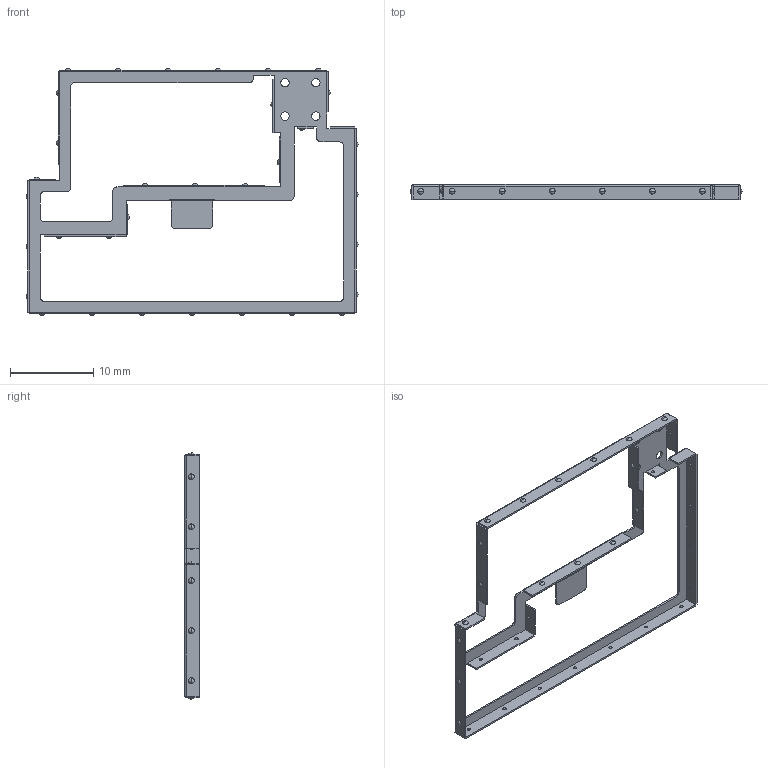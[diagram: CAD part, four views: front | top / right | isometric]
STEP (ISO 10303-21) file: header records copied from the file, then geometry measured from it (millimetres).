
FILE_DESCRIPTION((''),'2;1');
FILE_NAME('GTC01-A-MCS01-RF-FRAME_PRT','2008-06-30T',('GRA'),(''),'PRO/ENGINEER BY PARAMETRIC TECHNOLOGY CORPORATION, 2006170','PRO/ENGINEER BY PARAMETRIC TECHNOLOGY CORPORATION, 2006170','');
FILE_SCHEMA(('CONFIG_CONTROL_DESIGN'));
Length unit declared in the file: millimetre
Products named in the file (1): GTC01-A-MCS01-RF-FRAME_PRT
Bounding box: 39.8 x 1.75 x 29.6 mm (x, y, z)
Volume: 115.7 mm3; surface area: 1238.5 mm2
Topology: 1 solids, 1 shells, 308 faces, 804 edges, 432 vertices
Faces by surface type: plane 140, sphere 132, cylinder 36
Entity records: 8570 total; most frequent: DIRECTION 1624, CARTESIAN_POINT 1412, ORIENTED_EDGE 1344, EDGE_CURVE 672, AXIS2_PLACEMENT_3D 644, VERTEX_POINT 432, EDGE_LOOP 386, VECTOR 336
